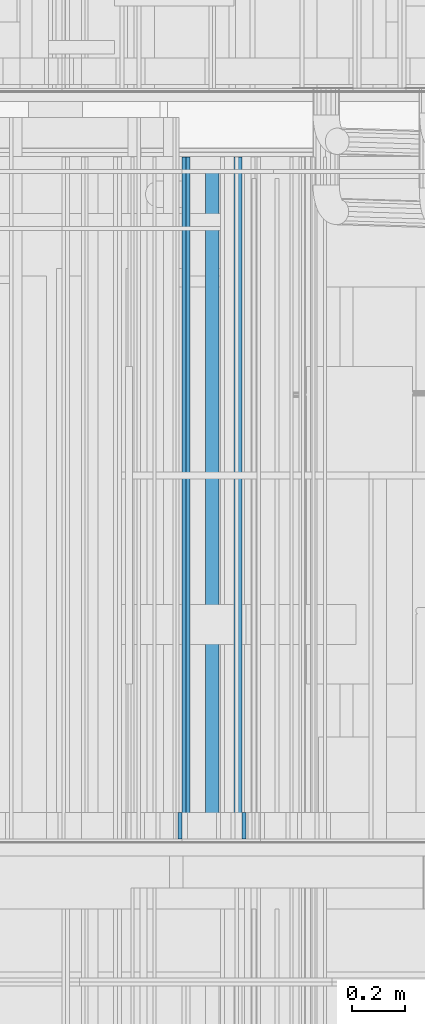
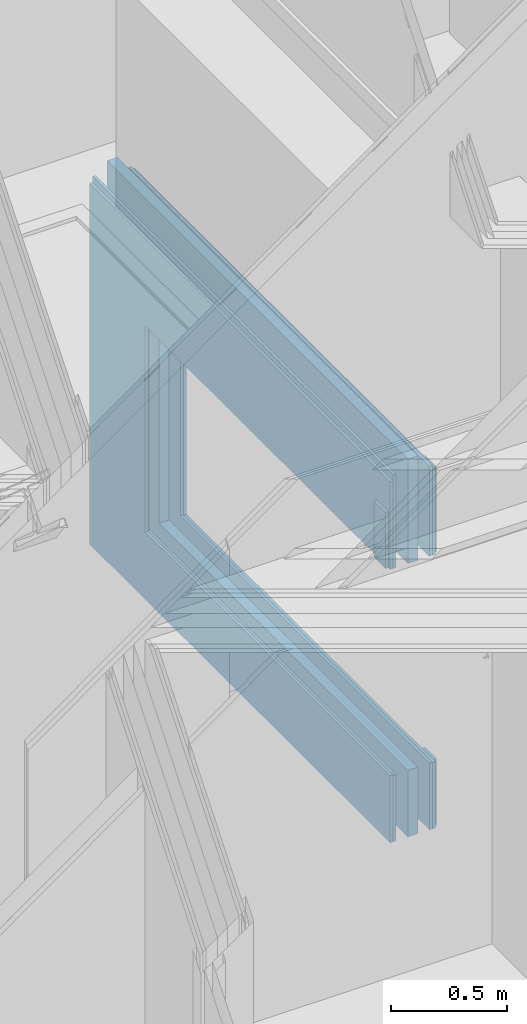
# One storey, part 94 of 583: 7 building element parts, 2 openings, 1 element without a shape of its own.
"""IFC2X3 building model written with IfcOpenShell, lengths in metres."""

from ifc_helpers import new_model, entity, si_unit, converted_unit, derived_unit, money_unit, direction, frame, frame_2d, origin_with_axes, place, context, subcontext, project, spatial, rectangle, extrude, material, type_object, element, aggregate, save


model = new_model("IFC2X3")

# Units and contexts
model_context = context("Model", 3, precision=1e-05, world=origin_with_axes(), true_north=direction((0.0, 1.0)))
body_context = subcontext(model_context, "Body", "Model", "MODEL_VIEW", scale=1.0)
ifc_project = project(units=[si_unit("LENGTHUNIT", "METRE"), si_unit("AREAUNIT", "SQUARE_METRE"), si_unit("VOLUMEUNIT", "CUBIC_METRE"), si_unit("ABSORBEDDOSEUNIT", "GRAY"), si_unit("AMOUNTOFSUBSTANCEUNIT", "MOLE"), si_unit("DOSEEQUIVALENTUNIT", "SIEVERT"), si_unit("ELECTRICCAPACITANCEUNIT", "FARAD"), si_unit("ELECTRICCHARGEUNIT", "COULOMB"), si_unit("ELECTRICCONDUCTANCEUNIT", "SIEMENS"), si_unit("ELECTRICCURRENTUNIT", "AMPERE"), si_unit("ELECTRICRESISTANCEUNIT", "OHM"), si_unit("ELECTRICVOLTAGEUNIT", "VOLT"), si_unit("ENERGYUNIT", "JOULE"), si_unit("FORCEUNIT", "NEWTON"), si_unit("FREQUENCYUNIT", "HERTZ"), si_unit("ILLUMINANCEUNIT", "LUX"), si_unit("INDUCTANCEUNIT", "HENRY"), si_unit("LUMINOUSFLUXUNIT", "LUMEN"), si_unit("LUMINOUSINTENSITYUNIT", "CANDELA"), si_unit("MAGNETICFLUXDENSITYUNIT", "TESLA"), si_unit("MAGNETICFLUXUNIT", "WEBER"), si_unit("MASSUNIT", "GRAM"), converted_unit("PLANEANGLEUNIT", "degree", entity("IfcReal", 0.0174532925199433), si_unit("PLANEANGLEUNIT", "RADIAN"), dimensions=[0, 0, 0, 0, 0, 0, 0]), si_unit("POWERUNIT", "WATT"), si_unit("PRESSUREUNIT", "PASCAL"), si_unit("RADIOACTIVITYUNIT", "BECQUEREL"), si_unit("SOLIDANGLEUNIT", "STERADIAN"), si_unit("THERMODYNAMICTEMPERATUREUNIT", "KELVIN"), si_unit("TIMEUNIT", "SECOND"), derived_unit("ACCELERATIONUNIT", [(si_unit("LENGTHUNIT", "METRE"), 1), (si_unit("TIMEUNIT", "SECOND"), -2)]), derived_unit("ANGULARVELOCITYUNIT", [(converted_unit("PLANEANGLEUNIT", "degree", entity("IfcReal", 0.0174532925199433), si_unit("PLANEANGLEUNIT", "RADIAN"), dimensions=[0, 0, 0, 0, 0, 0, 0]), 1), (si_unit("TIMEUNIT", "SECOND"), -1)]), derived_unit("CURVATUREUNIT", [(converted_unit("PLANEANGLEUNIT", "degree", entity("IfcReal", 0.0174532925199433), si_unit("PLANEANGLEUNIT", "RADIAN"), dimensions=[0, 0, 0, 0, 0, 0, 0]), 1), (si_unit("LENGTHUNIT", "METRE"), -1)]), derived_unit("DYNAMICVISCOSITYUNIT", [(si_unit("PRESSUREUNIT", "PASCAL"), 1), (si_unit("TIMEUNIT", "SECOND"), 1)]), derived_unit("HEATFLUXDENSITYUNIT", [(si_unit("POWERUNIT", "WATT"), 1), (si_unit("LENGTHUNIT", "METRE"), -2)]), derived_unit("HEATINGVALUEUNIT", [(si_unit("ENERGYUNIT", "JOULE"), 1), (si_unit("MASSUNIT", "GRAM"), -1)]), derived_unit("INTEGERCOUNTRATEUNIT", [(si_unit("TIMEUNIT", "SECOND"), -1)]), derived_unit("IONCONCENTRATIONUNIT", [(si_unit("MASSUNIT", "GRAM"), 1), (si_unit("VOLUMEUNIT", "CUBIC_METRE"), -1)]), derived_unit("ISOTHERMALMOISTURECAPACITYUNIT", [(si_unit("VOLUMEUNIT", "CUBIC_METRE"), 1), (si_unit("MASSUNIT", "GRAM"), -1)]), derived_unit("KINEMATICVISCOSITYUNIT", [(si_unit("AREAUNIT", "SQUARE_METRE"), 1), (si_unit("TIMEUNIT", "SECOND"), -1)]), derived_unit("LINEARFORCEUNIT", [(si_unit("FORCEUNIT", "NEWTON"), 1), (si_unit("LENGTHUNIT", "METRE"), -1)]), derived_unit("LINEARMOMENTUNIT", [(si_unit("FORCEUNIT", "NEWTON"), 1), (si_unit("LENGTHUNIT", "METRE"), -1)]), derived_unit("LINEARSTIFFNESSUNIT", [(si_unit("FORCEUNIT", "NEWTON"), 1), (si_unit("LENGTHUNIT", "METRE"), -1)]), derived_unit("LINEARVELOCITYUNIT", [(si_unit("LENGTHUNIT", "METRE"), 1), (si_unit("TIMEUNIT", "SECOND"), -1)]), derived_unit("LUMINOUSINTENSITYDISTRIBUTIONUNIT", [(si_unit("LUMINOUSINTENSITYUNIT", "CANDELA"), 1), (si_unit("LUMINOUSFLUXUNIT", "LUMEN"), -1)]), derived_unit("MASSDENSITYUNIT", [(si_unit("MASSUNIT", "GRAM"), 1), (si_unit("VOLUMEUNIT", "CUBIC_METRE"), -1)]), derived_unit("MASSFLOWRATEUNIT", [(si_unit("MASSUNIT", "GRAM"), 1), (si_unit("TIMEUNIT", "SECOND"), -1)]), derived_unit("MASSPERLENGTHUNIT", [(si_unit("MASSUNIT", "GRAM"), 1), (si_unit("LENGTHUNIT", "METRE"), -1)]), derived_unit("MODULUSOFELASTICITYUNIT", [(si_unit("FORCEUNIT", "NEWTON"), 1), (si_unit("AREAUNIT", "SQUARE_METRE"), -1)]), derived_unit("MODULUSOFLINEARSUBGRADEREACTIONUNIT", [(si_unit("FORCEUNIT", "NEWTON"), 1), (si_unit("LENGTHUNIT", "METRE"), -2)]), derived_unit("MODULUSOFROTATIONALSUBGRADEREACTIONUNIT", [(si_unit("FORCEUNIT", "NEWTON"), 1), (si_unit("LENGTHUNIT", "METRE"), 1)]), derived_unit("MODULUSOFSUBGRADEREACTIONUNIT", [(si_unit("FORCEUNIT", "NEWTON"), 1), (si_unit("VOLUMEUNIT", "CUBIC_METRE"), -1)]), derived_unit("MOISTUREDIFFUSIVITYUNIT", [(si_unit("VOLUMEUNIT", "CUBIC_METRE"), 1), (si_unit("TIMEUNIT", "SECOND"), -1)]), derived_unit("MOLECULARWEIGHTUNIT", [(si_unit("MASSUNIT", "GRAM"), 1), (si_unit("AMOUNTOFSUBSTANCEUNIT", "MOLE"), -1)]), derived_unit("PLANARFORCEUNIT", [(si_unit("FORCEUNIT", "NEWTON"), 1), (si_unit("LENGTHUNIT", "METRE"), -2)]), derived_unit("ROTATIONALFREQUENCYUNIT", [(si_unit("TIMEUNIT", "SECOND"), -1)]), derived_unit("ROTATIONALMASSUNIT", [(si_unit("MASSUNIT", "GRAM"), 1), (si_unit("LENGTHUNIT", "METRE"), 2)]), derived_unit("ROTATIONALSTIFFNESSUNIT", [(si_unit("FORCEUNIT", "NEWTON"), 1), (si_unit("LENGTHUNIT", "METRE"), 1), (converted_unit("PLANEANGLEUNIT", "degree", entity("IfcReal", 0.0174532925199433), si_unit("PLANEANGLEUNIT", "RADIAN"), dimensions=[0, 0, 0, 0, 0, 0, 0]), -1)]), derived_unit("SECTIONAREAINTEGRALUNIT", [(si_unit("LENGTHUNIT", "METRE"), 5)]), derived_unit("SECTIONMODULUSUNIT", [(si_unit("LENGTHUNIT", "METRE"), 3)]), derived_unit("SHEARMODULUSUNIT", [(si_unit("FORCEUNIT", "NEWTON"), 1), (si_unit("AREAUNIT", "SQUARE_METRE"), -1)]), derived_unit("SOUNDPOWERUNIT", [(si_unit("ENERGYUNIT", "JOULE"), 1), (si_unit("TIMEUNIT", "SECOND"), -1)]), derived_unit("SPECIFICHEATCAPACITYUNIT", [(si_unit("FORCEUNIT", "NEWTON"), 1), (si_unit("MASSUNIT", "GRAM"), -1), (si_unit("THERMODYNAMICTEMPERATUREUNIT", "KELVIN"), -1)]), derived_unit("TEMPERATUREGRADIENTUNIT", [(si_unit("THERMODYNAMICTEMPERATUREUNIT", "KELVIN"), 1), (si_unit("LENGTHUNIT", "METRE"), -1)]), derived_unit("THERMALADMITTANCEUNIT", [(si_unit("POWERUNIT", "WATT"), 1), (si_unit("AREAUNIT", "SQUARE_METRE"), -1), (si_unit("THERMODYNAMICTEMPERATUREUNIT", "KELVIN"), -1)]), derived_unit("THERMALCONDUCTANCEUNIT", [(si_unit("POWERUNIT", "WATT"), 1), (si_unit("LENGTHUNIT", "METRE"), -1), (si_unit("THERMODYNAMICTEMPERATUREUNIT", "KELVIN"), -1)]), derived_unit("THERMALEXPANSIONCOEFFICIENTUNIT", [(si_unit("THERMODYNAMICTEMPERATUREUNIT", "KELVIN"), -1)]), derived_unit("THERMALRESISTANCEUNIT", [(si_unit("AREAUNIT", "SQUARE_METRE"), 1), (si_unit("POWERUNIT", "WATT"), -1)]), derived_unit("THERMALTRANSMITTANCEUNIT", [(si_unit("POWERUNIT", "WATT"), 1), (si_unit("AREAUNIT", "SQUARE_METRE"), -1), (si_unit("THERMODYNAMICTEMPERATUREUNIT", "KELVIN"), -1)]), derived_unit("TORQUEUNIT", [(si_unit("FORCEUNIT", "NEWTON"), 1), (si_unit("LENGTHUNIT", "METRE"), 1)]), derived_unit("VAPORPERMEABILITYUNIT", [(si_unit("MASSUNIT", "GRAM"), 1), (si_unit("TIMEUNIT", "SECOND"), -1)]), derived_unit("VOLUMETRICFLOWRATEUNIT", [(si_unit("VOLUMEUNIT", "CUBIC_METRE"), 1), (si_unit("TIMEUNIT", "SECOND"), -1)]), derived_unit("WARPINGCONSTANTUNIT", [(si_unit("LENGTHUNIT", "METRE"), 6)]), derived_unit("WARPINGMOMENTUNIT", [(si_unit("FORCEUNIT", "NEWTON"), 1), (si_unit("LENGTHUNIT", "METRE"), 2)]), money_unit("GBP")], contexts=[model_context])

# Site, building, storey
site_placement = place(None, origin_with_axes())
site = spatial("IfcSite", under=ifc_project, at=site_placement, Name="Site", CompositionType="ELEMENT")
building_placement = place(site_placement, origin_with_axes())
building = spatial("IfcBuilding", under=site, at=building_placement, Name="Building01", CompositionType="ELEMENT")
storey_placement = place(building_placement, frame((0.0, 0.0, 20.78), z_axis=(0.0, 0.0, 1.0), x_axis=(1.0, 0.0, 0.0)))
storey = spatial("IfcBuildingStorey", under=building, at=storey_placement, Name="RL", CompositionType="ELEMENT", Elevation=20.78)

# Wall, openings, building element parts
wall_type = type_object("IfcWallType", Name="SHE_A-Walls_Type01c_Partywall_225mm_twin_tall", PredefinedType="NOTDEFINED")
wall_placement = place(storey_placement, frame((6.793, 12.13, -2.78), z_axis=(0.0, 1.0, 0.0), x_axis=(0.0, 0.0, 1.0)))
wall = element("IfcWall", 1, at=wall_placement, inside=storey, type_object=wall_type, Name="1C", ObjectType="SHE_A-Walls_Type01c_Partywall_225mm_twin_tall")
opening_1_placement = place(wall_placement, frame((0.353, -0.313, -0.03), z_axis=(0.0, 0.0, 1.0), x_axis=(1.0, 0.0, 0.0)))
element("IfcOpeningElement", 2, at=opening_1_placement, cuts=wall, Name="Opening", ObjectType="Opening", context=body_context, shape_type="SweptSolid", body=[
    extrude(rectangle(XDim=2.142, YDim=1.084, at=frame_2d((-0.542, 1.071), x_axis=(0.0, -1.0))), frame((0.0, -0.5445, 0.0), z_axis=(0.0, 1.0, 0.0), x_axis=(-1.0, 0.0, 0.0)), (0.0, 0.0, 1.0), 1.089),
])
opening_2_placement = place(wall_placement, frame((0.35, 0.137, 0.0), z_axis=(0.0, 0.0, 1.0), x_axis=(1.0, 0.0, 0.0)))
element("IfcOpeningElement", 3, at=opening_2_placement, cuts=wall, Name="Opening", ObjectType="Opening", context=body_context, shape_type="SweptSolid", body=[
    extrude(rectangle(XDim=2.142, YDim=1.084, at=frame_2d((-0.542, 1.071), x_axis=(0.0, -1.0))), frame((0.0, -0.2055, 0.0), z_axis=(0.0, 1.0, 0.0), x_axis=(-1.0, 0.0, 0.0)), (0.0, 0.0, 1.0), 0.411),
])
ifc_material_1 = material(Name="A_BSUK_Insulation")
placement = place(wall_placement, origin_with_axes())
building_element_part_1 = element("IfcBuildingElementPart", 4, at=placement, material=ifc_material_1, Name="1", context=body_context, shape_type="SweptSolid", body=[
    extrude(rectangle(XDim=1.985661, YDim=0.05, at=frame_2d((0.992831, 0.025), x_axis=(-1.0, 0.0))), origin_with_axes(), (0.0, 0.0, 1.0), 2.59),
])
ifc_material_2 = material(Name="A_BSUK_Walls_Timber")
building_element_part_2 = element("IfcBuildingElementPart", 5, at=placement, material=ifc_material_2, Name="2", context=body_context, shape_type="SweptSolid", body=[
    extrude(rectangle(XDim=1.882661, YDim=0.015, at=frame_2d((0.941331, 0.1445), x_axis=(-1.0, 0.0))), frame((0.0, 0.0, 0.015), z_axis=(0.0, 0.0, 1.0), x_axis=(1.0, 0.0, 0.0)), (0.0, 0.0, 1.0), 0.1),
])
ifc_material_3 = material(Name="A_BSUK_WallInternal_Finishes_Plasterboard")
building_element_part_3 = element("IfcBuildingElementPart", 6, at=placement, material=ifc_material_3, Name="3", context=body_context, shape_type="SweptSolid", body=[
    extrude(rectangle(XDim=1.897661, YDim=0.015, at=frame_2d((0.948831, 0.1295), x_axis=(-1.0, 0.0))), origin_with_axes(), (0.0, 0.0, 1.0), 2.59),
])
building_element_part_4 = element("IfcBuildingElementPart", 7, at=placement, material=ifc_material_3, Name="4", context=body_context, shape_type="SweptSolid", body=[
    extrude(rectangle(XDim=1.912661, YDim=0.015, at=frame_2d((0.956331, 0.1145), x_axis=(-1.0, 0.0))), origin_with_axes(), (0.0, 0.0, 1.0), 2.59),
])
building_element_part_5 = element("IfcBuildingElementPart", 8, at=placement, material=ifc_material_3, Name="5", context=body_context, shape_type="SweptSolid", body=[
    extrude(rectangle(XDim=1.927661, YDim=0.015, at=frame_2d((0.963831, -0.0655), x_axis=(-1.0, 0.0))), origin_with_axes(), (0.0, 0.0, 1.0), 2.59),
])
building_element_part_6 = element("IfcBuildingElementPart", 9, at=placement, material=ifc_material_3, Name="6", context=body_context, shape_type="SweptSolid", body=[
    extrude(rectangle(XDim=1.897661, YDim=0.015, at=frame_2d((0.948831, -0.0805), x_axis=(-1.0, 0.0))), origin_with_axes(), (0.0, 0.0, 1.0), 2.59),
])
building_element_part_7 = element("IfcBuildingElementPart", 10, at=placement, material=ifc_material_2, Name="7", context=body_context, shape_type="SweptSolid", body=[
    extrude(rectangle(XDim=0.401969, YDim=0.015, at=frame_2d((1.529984, -0.0955), x_axis=(-1.0, 0.0))), frame((0.0, 0.0, 0.015), z_axis=(0.0, 0.0, 1.0), x_axis=(1.0, 0.0, 0.0)), (0.0, 0.0, 1.0), 0.1),
])
aggregate(wall, [building_element_part_1, building_element_part_2, building_element_part_3, building_element_part_4, building_element_part_5, building_element_part_6, building_element_part_7])

save(model, "model.ifc")
